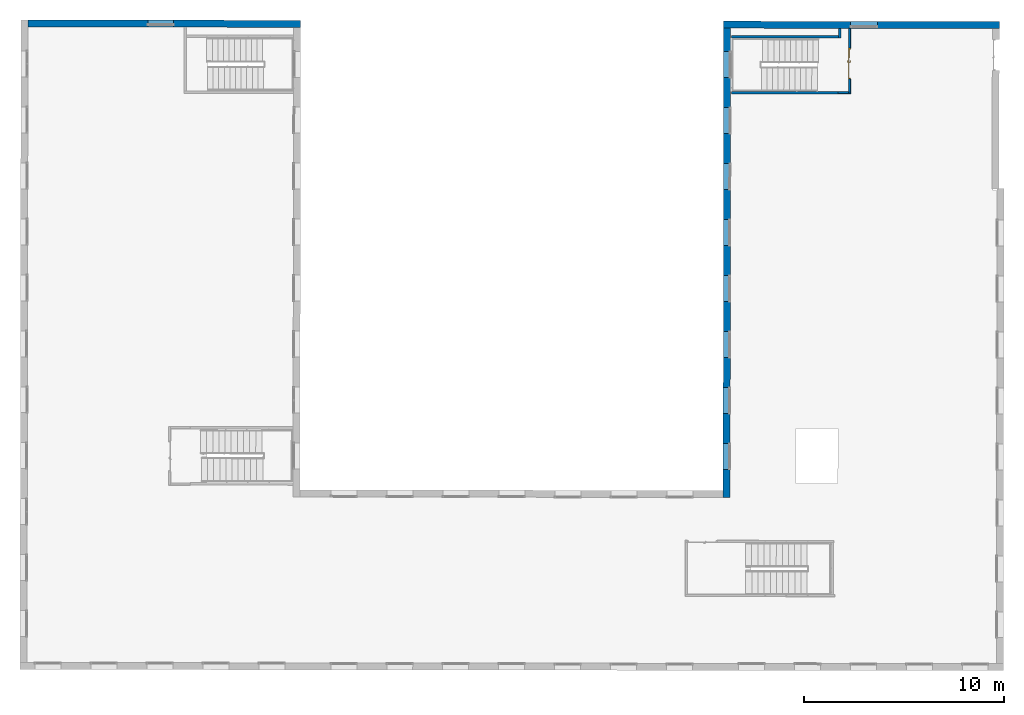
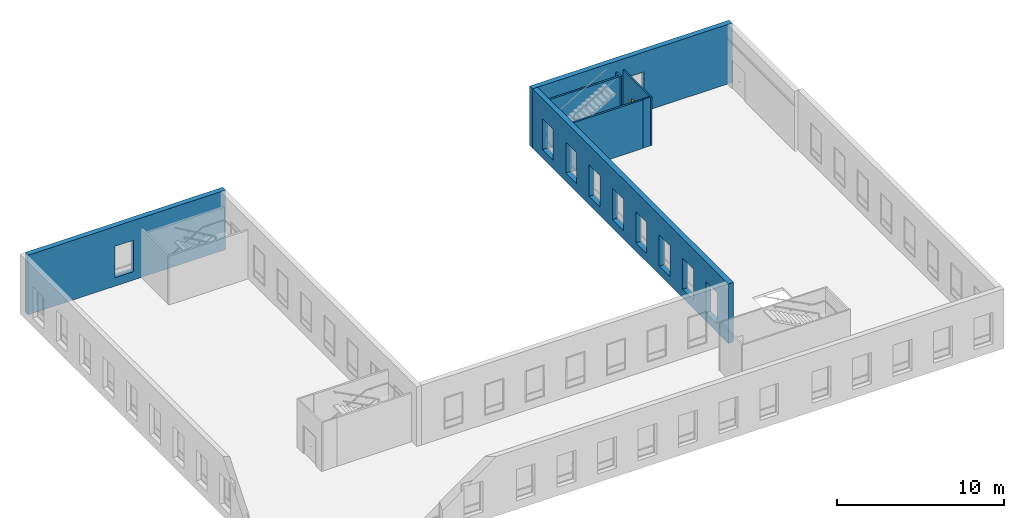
# One storey, part 32 of 35: 8 walls, 1 door, 11 openings.
"""IFC2X3 building model written with IfcOpenShell, lengths in metres."""

from ifc_helpers import new_model, entity, si_unit, converted_unit, derived_unit, direction, frame, frame_2d, origin, place, context, subcontext, project, spatial, polyline, rectangle, outline, extrude, faceted_brep, source, transform, mapped, material, material_list, layer, layer_set, layer_usage, type_object, type_shapes, element, fill, save


model = new_model("IFC2X3")

# Units and contexts
model_context = context("Model", 3, precision=1e-05, world=origin(), true_north=direction((6.123233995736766e-17, 1.0)))
body_context = subcontext(model_context, "Body", "Model", "MODEL_VIEW")
ifc_project = project(units=[si_unit("LENGTHUNIT", "METRE"), si_unit("AREAUNIT", "SQUARE_METRE"), converted_unit("PLANEANGLEUNIT", "DEGREE", entity("IfcPlaneAngleMeasure", 0.017453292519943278), si_unit("PLANEANGLEUNIT", "RADIAN"), dimensions=[0, 0, 0, 0, 0, 0, 0]), derived_unit("THERMALTRANSMITTANCEUNIT", [(si_unit("MASSUNIT", "GRAM", prefix="KILO"), 1), (si_unit("THERMODYNAMICTEMPERATUREUNIT", "KELVIN"), -1), (si_unit("TIMEUNIT", "SECOND"), -3)])], contexts=[model_context])

# Site, building, storey
site_placement = place(None, frame((1253.6752467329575, 2072.143113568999, 91.49999999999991), z_axis=(0.0, 0.0, 1.0), x_axis=(0.7237211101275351, 0.6900925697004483, 0.0)))
site = spatial("IfcSite", under=ifc_project, at=site_placement, Name="Surface", CompositionType="ELEMENT")
building_placement = place(site_placement, origin())
building = spatial("IfcBuilding", under=site, at=building_placement, CompositionType="ELEMENT")
storey_placement = place(building_placement, frame((0.0, 0.0, 3.549999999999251)))
storey = spatial("IfcBuildingStorey", under=building, at=storey_placement, Name="1-R+1", CompositionType="ELEMENT", Elevation=3.549999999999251)

# Wall, opening
ifc_material_1 = material(Name="OMD_Béton blanc")
ifc_layer_1 = layer(ifc_material_1, 0.35)
ifc_layer_set_1 = layer_set([ifc_layer_1], Name="Mur de base:MUR 35")
ifc_layer_usage_1 = layer_usage(ifc_layer_set_1, "AXIS2", "NEGATIVE", 0.175)
wall_type_1 = type_object("IfcWallType", Name="Mur de base:MUR 35", PredefinedType="STANDARD", material=ifc_layer_set_1)
wall_1_placement = place(storey_placement, frame((191.47872861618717, 3.317611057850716, 0.0), z_axis=(0.0, 0.0, 1.0), x_axis=(0.7228702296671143, -0.6909838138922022, 0.0)))
wall_1 = element("IfcWallStandardCase", 1, at=wall_1_placement, inside=storey, type_object=wall_type_1, material=ifc_layer_usage_1, Name="Mur de base:MUR 35", ObjectType="Mur de base:MUR 35", context=body_context, shape_type="SweptSolid", body=[
    extrude(rectangle(XDim=13.788887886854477, YDim=0.3499999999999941, at=frame_2d((6.894443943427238, -1.9012569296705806e-15), x_axis=(-1.0, 0.0))), origin(), (0.0, 0.0, 1.0), 4.3500000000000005),
])
opening_1_placement = place(wall_1_placement, frame((6.9898005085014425, -0.9929624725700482, 0.6199999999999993)))
element("IfcOpeningElement", 2, at=opening_1_placement, cuts=wall_1, Name="Mur de base:MUR 35", ObjectType="Opening", context=body_context, shape_type="SweptSolid", body=[
    extrude(rectangle(XDim=2.28, YDim=1.332479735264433, at=frame_2d((0.0, 8.881784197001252e-16), x_axis=(0.0, 1.0))), frame((0.03003591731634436, 0.6655624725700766, 1.1399999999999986), z_axis=(0.0, 1.0, 0.0), x_axis=(-1.0, 0.0, 0.0)), (0.0, 0.0, 1.0), 0.6548000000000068),
])

# Wall, openings
ifc_layer_usage_2 = layer_usage(ifc_layer_set_1, "AXIS2", "NEGATIVE", 0.175)
wall_2_placement = place(storey_placement, frame((175.26170617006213, -13.901030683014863, 0.0), z_axis=(0.0, 0.0, 1.0), x_axis=(0.6909838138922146, 0.7228702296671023, 0.0)))
wall_2 = element("IfcWallStandardCase", 3, at=wall_2_placement, inside=storey, type_object=wall_type_1, material=ifc_layer_usage_2, Name="Mur de base:MUR 35", ObjectType="Mur de base:MUR 35", context=body_context, shape_type="SweptSolid", body=[
    extrude(rectangle(XDim=23.47754352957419, YDim=0.3499999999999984, at=frame_2d((11.738771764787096, 3.7470027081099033e-16), x_axis=(-1.0, 0.0))), origin(), (0.0, 0.0, 1.0), 4.3500000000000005),
])
opening_2_placement = place(wall_2_placement, frame((20.672932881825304, 0.014760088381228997, 0.6200000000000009)))
element("IfcOpeningElement", 4, at=opening_2_placement, cuts=wall_2, Name="Mur de base:MUR 35", ObjectType="Opening", context=body_context, shape_type="SweptSolid", body=[
    extrude(rectangle(XDim=2.28, YDim=1.299695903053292, at=frame_2d((-2.220446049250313e-16, -1.6653345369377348e-16), x_axis=(1.0, 0.0))), frame((0.9769150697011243, -0.342160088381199, 1.1399999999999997), z_axis=(0.0, 1.0, 0.0), x_axis=(0.0, 0.0, 1.0)), (0.0, 0.0, 1.0), 0.6547999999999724),
])
opening_3_placement = place(wall_2_placement, frame((17.873236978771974, 0.01476008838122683, 0.6200000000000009)))
element("IfcOpeningElement", 5, at=opening_3_placement, cuts=wall_2, Name="Mur de base:MUR 35", ObjectType="Opening", context=body_context, shape_type="SweptSolid", body=[
    extrude(rectangle(XDim=2.28, YDim=1.2996959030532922, at=frame_2d((-2.220446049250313e-16, 0.0), x_axis=(1.0, 0.0))), frame((0.9769150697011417, -0.34216008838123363, 1.1399999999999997), z_axis=(0.0, 1.0, 0.0), x_axis=(0.0, 0.0, 1.0)), (0.0, 0.0, 1.0), 0.6547999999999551),
])
opening_4_placement = place(wall_2_placement, frame((15.07323697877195, 0.01476008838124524, 0.6200000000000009)))
element("IfcOpeningElement", 6, at=opening_4_placement, cuts=wall_2, Name="Mur de base:MUR 35", ObjectType="Opening", context=body_context, shape_type="SweptSolid", body=[
    extrude(rectangle(XDim=2.28, YDim=1.2996959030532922, at=frame_2d((-2.220446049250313e-16, 0.0), x_axis=(1.0, 0.0))), frame((0.976915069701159, -0.34216008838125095, 1.1399999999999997), z_axis=(0.0, 1.0, 0.0), x_axis=(0.0, 0.0, 1.0)), (0.0, 0.0, 1.0), 0.6547999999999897),
])
opening_5_placement = place(wall_2_placement, frame((12.273236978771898, 0.014760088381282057, 0.6200000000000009)))
element("IfcOpeningElement", 7, at=opening_5_placement, cuts=wall_2, Name="Mur de base:MUR 35", ObjectType="Opening", context=body_context, shape_type="SweptSolid", body=[
    extrude(rectangle(XDim=2.28, YDim=1.2996959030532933, at=frame_2d((-2.220446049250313e-16, 1.6653345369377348e-16), x_axis=(1.0, 0.0))), frame((0.976915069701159, -0.34216008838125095, 1.1399999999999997), z_axis=(0.0, 1.0, 0.0), x_axis=(0.0, 0.0, 1.0)), (0.0, 0.0, 1.0), 0.6547999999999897),
])
opening_6_placement = place(wall_2_placement, frame((9.473236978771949, 0.01476008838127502, 0.6200000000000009)))
element("IfcOpeningElement", 8, at=opening_6_placement, cuts=wall_2, Name="Mur de base:MUR 35", ObjectType="Opening", context=body_context, shape_type="SweptSolid", body=[
    extrude(rectangle(XDim=2.28, YDim=1.2996959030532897, at=frame_2d((-2.220446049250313e-16, 0.0), x_axis=(1.0, 0.0))), frame((0.9769150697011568, -0.3421600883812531, 1.1399999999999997), z_axis=(0.0, 1.0, 0.0), x_axis=(0.0, 0.0, 1.0)), (0.0, 0.0, 1.0), 0.6547999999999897),
])
opening_7_placement = place(wall_2_placement, frame((6.673236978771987, 0.01476008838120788, 0.6200000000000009)))
element("IfcOpeningElement", 9, at=opening_7_placement, cuts=wall_2, Name="Mur de base:MUR 35", ObjectType="Opening", context=body_context, shape_type="SweptSolid", body=[
    extrude(rectangle(XDim=2.28, YDim=1.2996959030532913, at=frame_2d((-2.220446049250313e-16, 7.771561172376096e-16), x_axis=(1.0, 0.0))), frame((0.9769150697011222, -0.34216008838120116, 1.1399999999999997), z_axis=(0.0, 1.0, 0.0), x_axis=(0.0, 0.0, 1.0)), (0.0, 0.0, 1.0), 0.6547999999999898),
])
opening_8_placement = place(wall_2_placement, frame((3.873236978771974, 0.014760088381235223, 0.6200000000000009)))
element("IfcOpeningElement", 10, at=opening_8_placement, cuts=wall_2, Name="Mur de base:MUR 35", ObjectType="Opening", context=body_context, shape_type="SweptSolid", body=[
    extrude(rectangle(XDim=2.28, YDim=1.2996959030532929, at=frame_2d((-2.220446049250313e-16, 0.0), x_axis=(1.0, 0.0))), frame((0.9769150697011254, -0.3421600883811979, 1.1399999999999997), z_axis=(0.0, 1.0, 0.0), x_axis=(0.0, 0.0, 1.0)), (0.0, 0.0, 1.0), 0.6547999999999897),
])
opening_9_placement = place(wall_2_placement, frame((1.073236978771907, 0.014760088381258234, 0.6200000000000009)))
element("IfcOpeningElement", 11, at=opening_9_placement, cuts=wall_2, Name="Mur de base:MUR 35", ObjectType="Opening", context=body_context, shape_type="SweptSolid", body=[
    extrude(rectangle(XDim=2.28, YDim=1.2996959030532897, at=frame_2d((-2.220446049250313e-16, 0.0), x_axis=(1.0, 0.0))), frame((0.9769150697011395, -0.3421600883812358, 1.1399999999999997), z_axis=(0.0, 1.0, 0.0), x_axis=(0.0, 0.0, 1.0)), (0.0, 0.0, 1.0), 0.6547999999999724),
])

# Wall, opening
ifc_layer_usage_3 = layer_usage(ifc_layer_set_1, "AXIS2", "NEGATIVE", 0.175)
wall_3_placement = place(storey_placement, frame((166.32914734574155, 27.3812318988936, 0.0), z_axis=(0.0, 0.0, 1.0), x_axis=(0.7228702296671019, -0.6909838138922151, 0.0)))
wall_3 = element("IfcWallStandardCase", 12, at=wall_3_placement, inside=storey, type_object=wall_type_1, material=ifc_layer_usage_3, Name="Mur de base:MUR 35", ObjectType="Mur de base:MUR 35", context=body_context, shape_type="SweptSolid", body=[
    extrude(outline(polyline([(-0.13224542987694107, -6.040367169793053), (-0.0735704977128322, -6.040367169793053), (0.1864295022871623, -6.040367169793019), (0.2177545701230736, -6.040367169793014), (0.2177545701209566, 7.600602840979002), (0.18642950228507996, 7.600610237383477), (-0.07357049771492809, 7.60067162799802), (-0.1322454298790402, 7.6006854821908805), (-0.13224542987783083, -0.21036716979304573), (-0.13224542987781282, -0.3403671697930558), (-0.13224542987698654, -5.690367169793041), (-0.13224542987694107, -6.040367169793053)])), frame((7.6006854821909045, -0.042754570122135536, 0.0), z_axis=(0.0, 0.0, 1.0), x_axis=(0.0, 1.0, 0.0)), (0.0, 0.0, 1.0), 4.35),
])
opening_10_placement = place(storey_placement, frame((166.32914734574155, 27.3812318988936, 0.0), z_axis=(0.0, 0.0, 1.0), x_axis=(0.7228702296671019, -0.6909838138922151, 0.0)))
element("IfcOpeningElement", 13, at=opening_10_placement, cuts=wall_3, Name="Mur de base:MUR 35:1", ObjectType="Opening", context=body_context, shape_type="SweptSolid", body=[
    extrude(rectangle(XDim=2.28, YDim=1.2996959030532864, at=frame_2d((8.881784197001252e-16, -1.4988010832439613e-15), x_axis=(1.0, 0.0))), frame((6.644378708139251, 0.17500000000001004, 1.7599999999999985), z_axis=(0.0, -1.0, 0.0), x_axis=(0.0, 0.0, 1.0)), (0.0, 0.0, 1.0), 0.34999999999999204),
])

# Walls
ifc_layer_2 = layer(ifc_material_1, 0.12999999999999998)
ifc_layer_set_2 = layer_set([ifc_layer_2], Name="Mur de base:MUR 13")
ifc_layer_usage_4 = layer_usage(ifc_layer_set_2, "AXIS2", "NEGATIVE", 0.06499999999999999)
wall_type_2 = type_object("IfcWallType", Name="Mur de base:MUR 13", PredefinedType="STANDARD", material=ifc_layer_set_2)
wall_4_placement = place(storey_placement, frame((195.54943927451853, -0.8156275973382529, 0.0), z_axis=(0.0, 0.0, 1.0), x_axis=(-0.6909838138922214, -0.722870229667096, 0.0)))
element("IfcWallStandardCase", 14, at=wall_4_placement, inside=storey, type_object=wall_type_2, material=ifc_layer_usage_4, Name="Mur de base:MUR 13", ObjectType="Mur de base:MUR 13", context=body_context, shape_type="SweptSolid", body=[
    extrude(rectangle(XDim=0.49254352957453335, YDim=0.12999999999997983, at=frame_2d((0.24627176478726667, 8.881784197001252e-16), x_axis=(-1.0, 0.0))), origin(), (0.0, 0.0, 1.0), 3.5499999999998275),
])
ifc_layer_usage_5 = layer_usage(ifc_layer_set_2, "AXIS2", "NEGATIVE", 0.06499999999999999)
wall_5_placement = place(storey_placement, frame((195.20702705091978, -1.0797721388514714, 0.0), z_axis=(0.0, 0.0, 1.0), x_axis=(-0.7228702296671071, 0.6909838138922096, 0.0)))
element("IfcWallStandardCase", 15, at=wall_5_placement, inside=storey, type_object=wall_type_2, material=ifc_layer_usage_5, Name="Mur de base:MUR 13", ObjectType="Mur de base:MUR 13", context=body_context, shape_type="SweptSolid", body=[
    extrude(rectangle(XDim=5.340000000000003, YDim=0.1299999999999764, at=frame_2d((2.6700000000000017, -3.7470027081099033e-16), x_axis=(-1.0, 0.0))), origin(), (0.0, 0.0, 1.0), 3.5499999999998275),
])
ifc_layer_usage_6 = layer_usage(ifc_layer_set_2, "AXIS2", "NEGATIVE", 0.06499999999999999)
wall_6_placement = place(storey_placement, frame((193.27227237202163, -3.1038087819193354, 0.0), z_axis=(0.0, 0.0, 1.0), x_axis=(-0.7228702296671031, 0.6909838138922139, 0.0)))
element("IfcWallStandardCase", 16, at=wall_6_placement, inside=storey, type_object=wall_type_2, material=ifc_layer_usage_6, Name="Mur de base:MUR 13", ObjectType="Mur de base:MUR 13", context=body_context, shape_type="SweptSolid", body=[
    extrude(rectangle(XDim=5.339999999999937, YDim=0.13000000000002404, at=frame_2d((2.6699999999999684, 3.0531133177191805e-16), x_axis=(-1.0, 0.0))), origin(), (0.0, 0.0, 1.0), 3.5499999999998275),
])

# Wall, opening, door
ifc_layer_3 = layer(ifc_material_1, 0.1)
ifc_layer_set_3 = layer_set([ifc_layer_3], Name="Mur de base:MUR 10")
ifc_layer_usage_7 = layer_usage(ifc_layer_set_3, "AXIS2", "NEGATIVE", 0.05)
wall_type_3 = type_object("IfcWallType", Name="Mur de base:MUR 10", PredefinedType="STANDARD", material=ifc_layer_set_3)
wall_7_placement = place(storey_placement, frame((195.91448874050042, -1.1645744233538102, 0.0), z_axis=(0.0, 0.0, 1.0), x_axis=(-0.6909838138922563, -0.7228702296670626, 0.0)))
wall_7 = element("IfcWallStandardCase", 17, at=wall_7_placement, inside=storey, type_object=wall_type_3, material=ifc_layer_usage_7, Name="Mur de base:MUR 10", ObjectType="Mur de base:MUR 10", context=body_context, shape_type="SweptSolid", body=[
    extrude(rectangle(XDim=3.267543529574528, YDim=0.10000000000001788, at=frame_2d((1.633771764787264, 1.2524703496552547e-15), x_axis=(-1.0, 0.0))), origin(), (0.0, 0.0, 1.0), 3.5499999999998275),
])
opening_11_placement = place(wall_7_placement, frame((2.5425435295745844, 0.05000000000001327, 0.0)))
opening_11 = element("IfcOpeningElement", 18, at=opening_11_placement, cuts=wall_7, Name="OMD_Porte 2V tunnel:double 140x204:1", ObjectType="Opening", context=body_context, shape_type="SweptSolid", body=[
    extrude(rectangle(XDim=2.085, YDim=1.5499999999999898, at=frame_2d((1.0425, 0.7749999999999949), x_axis=(1.0, 0.0))), frame((0.0, 0.0, 0.0), z_axis=(0.0, -1.0, 0.0), x_axis=(0.0, 0.0, 1.0)), (0.0, 0.0, 1.0), 0.1),
])
ifc_material_2 = material(Name="<Unnamed>")
ifc_material_3 = material(Name="Porte - Poignée")
ifc_material_4 = material(Name="OMD_Bois")
ifc_material_list = material_list([ifc_material_2, ifc_material_3, ifc_material_4])
door_style = type_object("IfcDoorStyle", Name="OMD_Porte 2V tunnel:double 140x204", ConstructionType="NOTDEFINED", OperationType="NOTDEFINED", ParameterTakesPrecedence=False, Sizeable=False, material=ifc_material_list)
shared_shape = source(origin(), body_context, "Body", "Brep", [
    faceted_brep([(1.504999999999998, 0.03000000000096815, 0.0), (1.504999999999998, 0.0, 0.0), (0.7749999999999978, 0.0, 0.0), (0.7749999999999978, 0.03000000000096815, 0.0), (1.504999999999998, 0.03000000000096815, 2.04), (1.504999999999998, 0.0, 2.04), (0.7749999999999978, 0.0, 2.04), (0.7749999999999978, 0.03000000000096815, 2.04)], [[[0, 1, 2, 3]], [[4, 5, 1, 0]], [[5, 6, 2, 1]], [[6, 7, 3, 2]], [[7, 4, 0, 3]], [[4, 7, 6, 5]]]),
    faceted_brep([(0.7220252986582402, 0.03500000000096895, 1.0077804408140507), (0.7179747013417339, 0.03500000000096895, 1.007780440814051), (0.7139999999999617, 0.03500000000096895, 1.00699999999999), (0.7139999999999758, 0.03500000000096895, 0.9930000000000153), (0.7179747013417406, 0.03500000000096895, 0.9922195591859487), (0.7220252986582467, 0.03500000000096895, 0.9922195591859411), (0.7260000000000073, 0.03500000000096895, 0.9929999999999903), (0.7260000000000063, 0.03500000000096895, 1.006999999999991), (0.7139999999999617, 0.057485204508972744, 1.00699999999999), (0.7139999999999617, 0.05748520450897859, 0.9930000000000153), (0.7179747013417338, 0.05913157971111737, 1.007780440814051), (0.72202529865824, 0.06080939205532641, 1.0077804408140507), (0.7058389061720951, 0.07699578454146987, 1.0077804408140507), (0.7041610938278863, 0.07294518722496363, 1.007780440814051), (0.6207931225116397, 0.07294518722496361, 1.0077804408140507), (0.6191153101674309, 0.07699578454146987, 1.0077804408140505), (0.6114510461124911, 0.06933152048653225, 1.0077804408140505), (0.6143152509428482, 0.06646731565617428, 1.0077804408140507), (0.7260000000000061, 0.06245576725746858, 1.006999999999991), (0.7260000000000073, 0.06245576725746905, 0.9929999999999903), (0.7220252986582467, 0.060809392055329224, 0.9922195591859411), (0.7179747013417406, 0.05913157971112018, 0.9922195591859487), (0.7041610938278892, 0.07294518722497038, 0.9922195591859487), (0.705838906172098, 0.07699578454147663, 0.9922195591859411), (0.6191153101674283, 0.0769957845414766, 0.9922195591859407), (0.620793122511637, 0.07294518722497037, 0.9922195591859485), (0.6143152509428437, 0.0664673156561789, 0.9922195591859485), (0.6114510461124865, 0.06933152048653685, 0.9922195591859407), (0.7025147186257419, 0.06897048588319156, 1.00699999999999), (0.7025147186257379, 0.06897048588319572, 0.9930000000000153), (0.7074852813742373, 0.08097048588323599, 1.006999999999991), (0.7074852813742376, 0.08097048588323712, 0.9929999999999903), (0.6624771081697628, 0.06897048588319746, 1.0069999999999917), (0.6224394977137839, 0.06897048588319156, 1.0069999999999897), (0.622439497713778, 0.06897048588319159, 0.9930000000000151), (0.6624771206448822, 0.0689704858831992, 0.9930000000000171), (0.6624771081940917, 0.07512492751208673, 1.0078781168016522), (0.6573994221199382, 0.08097048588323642, 1.0069999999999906), (0.6174689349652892, 0.08097048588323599, 1.0069999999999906), (0.667554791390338, 0.08097048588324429, 0.9929999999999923), (0.6174689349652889, 0.08097048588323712, 0.99299999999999), (0.6624771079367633, 0.07512492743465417, 0.9921218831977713), (0.6086405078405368, 0.07214205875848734, 1.0069999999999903), (0.6086405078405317, 0.07214205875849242, 0.9929999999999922), (0.6171257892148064, 0.06365677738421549, 0.9930000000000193), (0.6171257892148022, 0.06365677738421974, 1.0069999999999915)], [[[0, 1, 2, 3, 4, 5, 6, 7]], [[8, 9, 3, 2]], [[1, 10, 8, 2]], [[1, 0, 11, 12, 13, 10]], [[14, 15, 16, 17]], [[7, 18, 11, 0]], [[18, 7, 6, 19]], [[6, 5, 20, 19]], [[5, 4, 21, 22, 23, 20]], [[24, 25, 26, 27]], [[4, 3, 9, 21]], [[28, 29, 9, 8]], [[8, 10, 13, 28]], [[18, 30, 12, 11]], [[31, 30, 18, 19]], [[19, 20, 23, 31]], [[21, 9, 29, 22]], [[29, 28, 32, 33, 34, 35]], [[36, 32, 13]], [[37, 38, 15]], [[37, 12, 30]], [[36, 12, 37]], [[14, 32, 36]], [[36, 15, 14]], [[28, 13, 32]], [[32, 14, 33]], [[12, 36, 13]], [[15, 36, 37]], [[30, 31, 39, 40, 38, 37]], [[23, 41, 39]], [[24, 39, 41]], [[39, 31, 23]], [[39, 24, 40]], [[22, 35, 41]], [[41, 23, 22]], [[41, 35, 25]], [[35, 22, 29]], [[34, 25, 35]], [[24, 41, 25]], [[17, 16, 42, 43, 27, 26, 44, 45]], [[45, 44, 34, 33]], [[33, 14, 17, 45]], [[15, 38, 42, 16]], [[43, 42, 38, 40]], [[24, 27, 43, 40]], [[34, 44, 26, 25]]]),
    faceted_brep([(0.7179747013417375, -0.004999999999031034, 1.007780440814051), (0.7220252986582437, -0.004999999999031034, 1.0077804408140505), (0.7260000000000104, -0.004999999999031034, 1.0069999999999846), (0.7260000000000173, -0.004999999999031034, 0.9929999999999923), (0.7220252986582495, -0.004999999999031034, 0.992219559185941), (0.7179747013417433, -0.004999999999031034, 0.9922195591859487), (0.7139999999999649, -0.004999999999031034, 0.9930000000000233), (0.7139999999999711, -0.004999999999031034, 1.006999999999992), (0.7220252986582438, -0.031004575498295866, 1.0077804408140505), (0.7260000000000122, -0.03265095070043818, 1.0069999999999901), (0.7179747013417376, -0.029326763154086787, 1.007780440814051), (0.7042986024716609, -0.043002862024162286, 1.007780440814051), (0.7059764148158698, -0.04705345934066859, 1.0077804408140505), (0.6191424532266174, -0.04705345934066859, 1.0077804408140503), (0.6208202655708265, -0.043002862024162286, 1.0077804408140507), (0.6143423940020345, -0.03652499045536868, 1.0077804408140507), (0.6114781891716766, -0.03938919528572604, 1.0077804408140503), (0.7139999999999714, -0.027680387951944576, 1.006999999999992), (0.7139999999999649, -0.02768038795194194, 0.9930000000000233), (0.7179747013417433, -0.029326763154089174, 0.9922195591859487), (0.7220252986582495, -0.0310045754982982, 0.992219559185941), (0.7059764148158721, -0.04705345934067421, 0.992219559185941), (0.7042986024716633, -0.04300286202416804, 0.9922195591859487), (0.6208202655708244, -0.04300286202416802, 0.9922195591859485), (0.6191424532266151, -0.047053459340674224, 0.9922195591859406), (0.6114781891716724, -0.039389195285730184, 0.9922195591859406), (0.6143423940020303, -0.03652499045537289, 0.9922195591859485), (0.7260000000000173, -0.03265095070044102, 0.9929999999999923), (0.7076227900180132, -0.05102816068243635, 1.0069999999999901), (0.7026522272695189, -0.039028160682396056, 1.006999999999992), (0.7026522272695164, -0.03902816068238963, 0.9930000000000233), (0.7076227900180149, -0.05102816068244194, 0.9929999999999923), (0.6625594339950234, -0.045182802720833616, 1.0078781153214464), (0.667692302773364, -0.051028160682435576, 1.0069999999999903), (0.617496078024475, -0.051028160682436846, 1.00699999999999), (0.6625594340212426, -0.039028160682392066, 1.0069999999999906), (0.6224666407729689, -0.03902816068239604, 1.0069999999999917), (0.6625594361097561, -0.039028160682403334, 0.9930000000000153), (0.6224666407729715, -0.03902816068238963, 0.9930000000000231), (0.6625594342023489, -0.04518280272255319, 0.9921218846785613), (0.6574265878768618, -0.05102816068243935, 0.9929999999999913), (0.6174960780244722, -0.05102816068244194, 0.9929999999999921), (0.6171529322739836, -0.03371445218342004, 0.9930000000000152), (0.6086676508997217, -0.04219973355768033, 0.9929999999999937), (0.6086676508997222, -0.04219973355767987, 1.0069999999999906), (0.6171529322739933, -0.03371445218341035, 1.0069999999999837)], [[[0, 1, 2, 3, 4, 5, 6, 7]], [[2, 1, 8, 9]], [[1, 0, 10, 11, 12, 8]], [[13, 14, 15, 16]], [[0, 7, 17, 10]], [[18, 17, 7, 6]], [[5, 19, 18, 6]], [[5, 4, 20, 21, 22, 19]], [[23, 24, 25, 26]], [[3, 27, 20, 4]], [[9, 27, 3, 2]], [[9, 8, 12, 28]], [[10, 17, 29, 11]], [[30, 29, 17, 18]], [[18, 19, 22, 30]], [[20, 27, 31, 21]], [[28, 31, 27, 9]], [[12, 32, 33]], [[13, 33, 32]], [[33, 28, 12]], [[33, 13, 34]], [[11, 35, 32]], [[32, 12, 11]], [[32, 35, 14]], [[35, 11, 29]], [[36, 14, 35]], [[13, 32, 14]], [[29, 30, 37, 38, 36, 35]], [[39, 37, 22]], [[40, 41, 24]], [[40, 21, 31]], [[39, 21, 40]], [[23, 37, 39]], [[39, 24, 23]], [[30, 22, 37]], [[37, 23, 38]], [[21, 39, 22]], [[24, 39, 40]], [[31, 28, 33, 34, 41, 40]], [[42, 26, 25, 43, 44, 16, 15, 45]], [[13, 16, 44, 34]], [[36, 45, 15, 14]], [[42, 45, 36, 38]], [[38, 23, 26, 42]], [[24, 41, 43, 25]], [[44, 43, 41, 34]]]),
    faceted_brep([(0.7199999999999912, 0.03000000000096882, 0.8646410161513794), (0.7303527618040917, 0.030000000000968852, 0.866003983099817), (0.7399999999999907, 0.030000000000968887, 0.8700000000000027), (0.7399999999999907, 0.030000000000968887, 1.0800000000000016), (0.7303527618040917, 0.030000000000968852, 1.0839960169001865), (0.7199999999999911, 0.03000000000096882, 1.0853589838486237), (0.7096472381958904, 0.03000000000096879, 1.0839960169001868), (0.6999999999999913, 0.030000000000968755, 1.0800000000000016), (0.6999999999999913, 0.030000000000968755, 0.8700000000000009), (0.7096472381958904, 0.03000000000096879, 0.8660039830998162), (0.7199999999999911, 0.035000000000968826, 1.0853589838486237), (0.7303527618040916, 0.03500000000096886, 1.0839960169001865), (0.7399999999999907, 0.03500000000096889, 1.0800000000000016), (0.7399999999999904, 0.03500000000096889, 0.8700000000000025), (0.7303527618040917, 0.03500000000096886, 0.866003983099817), (0.7199999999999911, 0.035000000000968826, 0.8646410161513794), (0.7096472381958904, 0.03500000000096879, 0.8660039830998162), (0.6999999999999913, 0.035000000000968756, 0.8700000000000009), (0.6999999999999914, 0.035000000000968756, 1.0800000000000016), (0.7096472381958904, 0.03500000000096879, 1.0839960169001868)], [[[0, 1, 2, 3, 4, 5, 6, 7, 8, 9]], [[10, 11, 12, 13, 14, 15, 16, 17, 18, 19]], [[6, 19, 18, 7]], [[5, 10, 19, 6]], [[4, 11, 10, 5]], [[4, 3, 12, 11]], [[12, 3, 2, 13]], [[1, 14, 13, 2]], [[0, 15, 14, 1]], [[9, 16, 15, 0]], [[9, 8, 17, 16]], [[17, 8, 7, 18]]]),
    faceted_brep([(0.7199999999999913, -0.0049999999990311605, 0.8646410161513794), (0.7303527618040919, -0.004999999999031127, 0.8660039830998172), (0.7399999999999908, -0.004999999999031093, 0.8700000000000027), (0.7399999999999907, -0.004999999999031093, 1.0800000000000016), (0.7303527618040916, -0.004999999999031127, 1.0839960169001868), (0.7199999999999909, -0.0049999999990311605, 1.0853589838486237), (0.7096472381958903, -0.004999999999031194, 1.0839960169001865), (0.6999999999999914, -0.00499999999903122, 1.0800000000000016), (0.6999999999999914, -0.00499999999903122, 0.8700000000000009), (0.7096472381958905, -0.004999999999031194, 0.8660039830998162), (0.7399999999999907, 0.0, 1.0800000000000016), (0.7399999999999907, 0.0, 0.8700000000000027), (0.7303527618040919, 0.0, 0.8660039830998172), (0.7199999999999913, 0.0, 0.8646410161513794), (0.7096472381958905, 0.0, 0.8660039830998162), (0.6999999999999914, 0.0, 0.8700000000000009), (0.6999999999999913, 0.0, 1.0800000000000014), (0.7096472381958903, 0.0, 1.0839960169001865), (0.7199999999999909, 0.0, 1.0853589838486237), (0.7303527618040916, 0.0, 1.0839960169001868)], [[[0, 1, 2, 3, 4, 5, 6, 7, 8, 9]], [[10, 11, 12, 13, 14, 15, 16, 17, 18, 19]], [[1, 12, 11, 2]], [[0, 13, 12, 1]], [[9, 14, 13, 0]], [[9, 8, 15, 14]], [[15, 8, 7, 16]], [[6, 17, 16, 7]], [[5, 18, 17, 6]], [[4, 19, 18, 5]], [[4, 3, 10, 19]], [[10, 3, 2, 11]]]),
    faceted_brep([(0.7750000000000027, 0.0300000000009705, 0.0), (0.7750000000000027, 0.0, 0.0), (0.04500000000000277, 0.0, 0.0), (0.04500000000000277, 0.0300000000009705, 0.0), (0.7750000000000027, 0.0300000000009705, 2.04), (0.7750000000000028, 0.0, 2.04), (0.04500000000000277, 0.0, 2.04), (0.04500000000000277, 0.0300000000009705, 2.04)], [[[0, 1, 2, 3]], [[4, 5, 1, 0]], [[5, 6, 2, 1]], [[6, 7, 3, 2]], [[7, 4, 0, 3]], [[4, 7, 6, 5]]]),
    faceted_brep([(1.5499999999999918, 0.0, 0.0), (1.5049999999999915, 0.0, 0.0), (1.5049999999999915, 0.0300000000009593, 0.0), (1.4899999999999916, 0.030000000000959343, 0.0), (1.489999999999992, 0.10000000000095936, 0.0), (1.549999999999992, 0.10000000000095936, 0.0), (1.5499999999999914, 0.0, 2.0849999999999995), (0.0, 0.0, 2.0849999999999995), (0.0, 0.0, 0.0), (0.04499999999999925, 0.0, 0.0), (0.04499999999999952, 0.0, 2.0399999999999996), (1.5049999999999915, 0.0, 2.0399999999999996), (1.5049999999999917, 0.0300000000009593, 2.0399999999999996), (0.04499999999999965, 0.030000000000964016, 2.039999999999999), (0.04499999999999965, 0.030000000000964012, 0.0), (0.05999999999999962, 0.030000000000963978, 0.0), (0.05999999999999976, 0.03000000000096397, 2.0249999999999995), (1.4899999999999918, 0.030000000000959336, 2.0249999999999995), (1.489999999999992, 0.10000000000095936, 2.025), (0.05999999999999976, 0.10000000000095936, 2.0249999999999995), (0.05999999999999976, 0.10000000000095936, 0.0), (0.0, 0.10000000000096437, 0.0), (0.0, 0.10000000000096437, 2.0849999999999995), (1.549999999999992, 0.10000000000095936, 2.085)], [[[0, 1, 2, 3, 4, 5]], [[1, 0, 6, 7, 8, 9, 10, 11]], [[2, 1, 11, 12]], [[3, 2, 12, 13, 14, 15, 16, 17]], [[4, 3, 17, 18]], [[5, 4, 18, 19, 20, 21, 22, 23]], [[0, 5, 23, 6]], [[7, 22, 21, 8]], [[8, 21, 20, 15, 14, 9]], [[13, 10, 9, 14]], [[19, 16, 15, 20]], [[12, 11, 10, 13]], [[18, 17, 16, 19]], [[6, 23, 22, 7]]]),
])
type_shapes(door_style, [shared_shape])
door_placement = place(opening_11_placement, frame((-1.549999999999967, -0.1000000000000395, 0.0)))
door = element("IfcDoor", 19, at=door_placement, inside=storey, type_object=door_style, material=ifc_material_list, Name="OMD_Porte 2V tunnel:double 140x204", ObjectType="OMD_Porte 2V tunnel:double 140x204", OverallHeight=2.085, OverallWidth=1.5500000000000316, context=body_context, shape_type="MappedRepresentation", body=[
    mapped(shared_shape, transform((0.0, 0.0, 0.0), scale=1.0)),
])
fill(opening_11, door)

# Wall
ifc_layer_usage_8 = layer_usage(ifc_layer_set_3, "AXIS2", "NEGATIVE", 0.05)
wall_8_placement = place(storey_placement, frame((193.6550747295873, -3.455891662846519, 0.0), z_axis=(0.0, 0.0, 1.0), x_axis=(-0.7228702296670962, 0.6909838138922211, 0.0)))
element("IfcWallStandardCase", 20, at=wall_8_placement, inside=storey, type_object=wall_type_3, material=ifc_layer_usage_8, Name="Mur de base:MUR 10", ObjectType="Mur de base:MUR 10", context=body_context, shape_type="SweptSolid", body=[
    extrude(rectangle(XDim=0.51999999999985, YDim=0.10000000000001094, at=frame_2d((0.259999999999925, -2.6055546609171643e-15), x_axis=(-1.0, 0.0))), origin(), (0.0, 0.0, 1.0), 3.5499999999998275),
])

save(model, "model.ifc")
